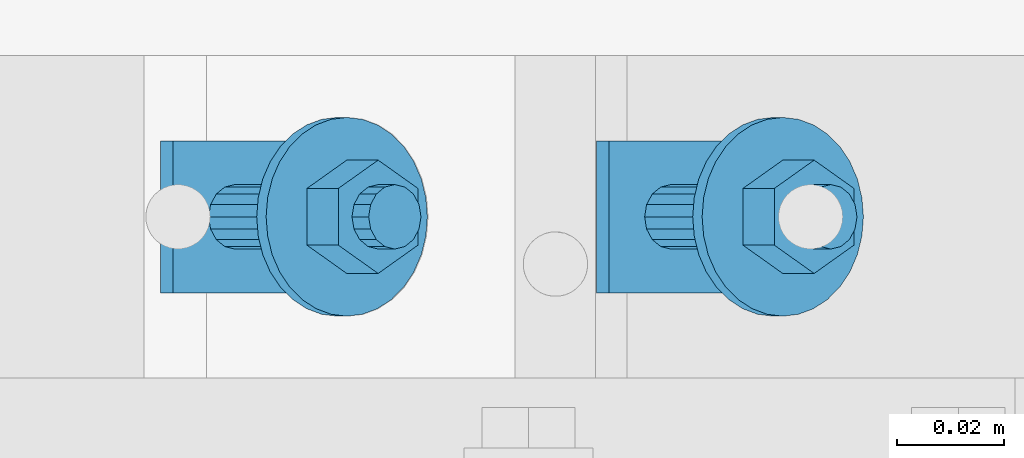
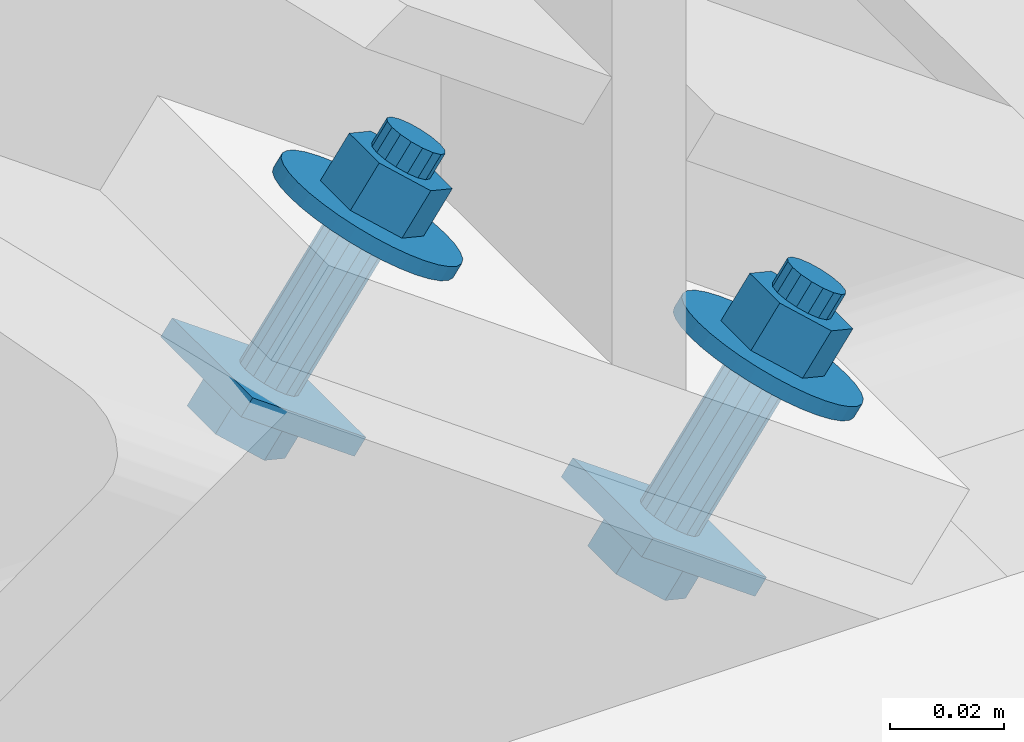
# One storey, part 343 of 825: 1 mechanical fastener.
"""IFC2X3 building model written with IfcOpenShell, lengths in millimetres."""

from ifc_helpers import new_model, entity, si_unit, converted_unit, origin_with_axes, place, context, project, spatial, faceted_brep, element, save


model = new_model("IFC2X3")

# Units and contexts
model_context = context("Model", 3, precision=1e-09, world=origin_with_axes())
ifc_project = project(units=[si_unit("LENGTHUNIT", "METRE", prefix="MILLI"), si_unit("AREAUNIT", "SQUARE_METRE"), si_unit("VOLUMEUNIT", "CUBIC_METRE"), converted_unit("PLANEANGLEUNIT", "DEGREE", entity("IfcPlaneAngleMeasure", 0.01745329), si_unit("PLANEANGLEUNIT", "RADIAN"), dimensions=[0, 0, 0, 0, 0, 0, 0])], contexts=[model_context])

# Site, building, storey
site_placement = place(None, origin_with_axes())
site = spatial("IfcSite", under=ifc_project, at=site_placement, Name="Cnopf'sche Kinderklinik", CompositionType="ELEMENT")
building_placement = place(site_placement, origin_with_axes())
building = spatial("IfcBuilding", under=site, at=building_placement, Name="Struktur 1", CompositionType="ELEMENT")
storey_placement = place(building_placement, origin_with_axes())
storey = spatial("IfcBuildingStorey", under=building, at=storey_placement, Name="Default Storey", CompositionType="ELEMENT", Elevation=0.0)

# Mechanical fastener
mechanical_fastener_placement = place(None, origin_with_axes())
element("IfcMechanicalFastener", 1, at=mechanical_fastener_placement, inside=storey, ObjectType="Bolt#500", NominalDiameter=12.0, NominalLength=55.0, context=model_context, shape_type="Brep", body=[
    faceted_brep([(6953.208396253, 5805.879107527, 16617.945883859), (6955.545145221, 5805.879107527, 16621.192359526), (6978.501194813, 5805.879107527, 16604.669049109), (6976.164445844, 5805.879107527, 16601.422573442), (6978.501194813, 5777.59483628, 16604.669049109), (6976.164445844, 5777.59483628, 16601.422573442), (6955.545145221, 5777.59483628, 16621.192359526), (6953.208396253, 5777.59483628, 16617.945883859)], [[[0, 1, 2, 3]], [[3, 2, 4, 5]], [[5, 4, 6, 7]], [[7, 6, 1, 0]], [[3, 5, 7, 0]], [[2, 1, 6, 4]]]),
    faceted_brep([(7034.370287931, 5805.879107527, 16559.527159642), (7036.7070369, 5805.879107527, 16562.773635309), (7059.663086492, 5805.879107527, 16546.250324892), (7057.326337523, 5805.879107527, 16543.003849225), (7059.663086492, 5777.59483628, 16546.250324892), (7057.326337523, 5777.59483628, 16543.003849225), (7036.7070369, 5777.59483628, 16562.773635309), (7034.370287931, 5777.59483628, 16559.527159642)], [[[0, 1, 2, 3]], [[3, 2, 4, 5]], [[5, 4, 6, 7]], [[7, 6, 1, 0]], [[3, 5, 7, 0]], [[2, 1, 6, 4]]]),
    faceted_brep([(6953.265647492, 5796.744471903, 16608.663885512), (6957.647051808, 5796.744471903, 16614.751027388), (6964.686421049, 5801.751971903, 16609.68422865), (6960.305016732, 5801.751971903, 16603.597086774), (6971.725790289, 5796.744471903, 16604.617429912), (6967.344385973, 5796.744471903, 16598.530288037), (6971.725790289, 5786.729471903, 16604.617429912), (6967.344385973, 5786.729471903, 16598.530288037), (6964.686421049, 5781.721971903, 16609.68422865), (6960.305016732, 5781.721971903, 16603.597086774), (6957.647051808, 5786.729471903, 16614.751027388), (6953.265647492, 5786.729471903, 16608.663885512)], [[[0, 1, 2, 3]], [[3, 2, 4, 5]], [[5, 4, 6, 7]], [[7, 6, 8, 9]], [[9, 8, 10, 11]], [[11, 10, 1, 0]], [[3, 5, 7, 9, 11, 0]], [[2, 1, 10, 8, 6, 4]]]),
    faceted_brep([(7034.427539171, 5796.744471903, 16550.245161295), (7038.808943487, 5796.744471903, 16556.332303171), (7045.848312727, 5801.751971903, 16551.265504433), (7041.466908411, 5801.751971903, 16545.178362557), (7052.887681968, 5796.744471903, 16546.198705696), (7048.506277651, 5796.744471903, 16540.11156382), (7052.887681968, 5786.729471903, 16546.198705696), (7048.506277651, 5786.729471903, 16540.11156382), (7045.848312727, 5781.721971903, 16551.265504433), (7041.466908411, 5781.721971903, 16545.178362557), (7038.808943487, 5786.729471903, 16556.332303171), (7034.427539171, 5786.729471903, 16550.245161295)], [[[0, 1, 2, 3]], [[3, 2, 4, 5]], [[5, 4, 6, 7]], [[7, 6, 8, 9]], [[9, 8, 10, 11]], [[11, 10, 1, 0]], [[3, 5, 7, 9, 11, 0]], [[2, 1, 10, 8, 6, 4]]]),
    faceted_brep([(6990.985761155, 5791.736971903, 16635.951563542), (6971.892883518, 5791.736971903, 16609.425580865), (6971.52219865, 5794.033072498, 16609.6923925), (6990.615076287, 5794.033072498, 16636.218375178), (6970.466577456, 5795.979612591, 16610.452207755), (6989.559455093, 5795.979612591, 16636.978190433), (6968.886728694, 5797.280249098, 16611.589351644), (6987.979606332, 5797.280249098, 16638.115334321), (6967.023170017, 5797.736971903, 16612.930704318), (6986.116047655, 5797.736971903, 16639.456686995), (6965.15961134, 5797.280249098, 16614.272056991), (6984.252488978, 5797.280249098, 16640.798039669), (6963.579762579, 5795.979612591, 16615.40920088), (6982.672640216, 5795.979612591, 16641.935183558), (6962.524141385, 5794.033072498, 16616.169016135), (6981.617019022, 5794.033072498, 16642.694998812), (6962.153456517, 5791.736971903, 16616.435827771), (6981.246334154, 5791.736971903, 16642.961810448), (6962.524141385, 5789.440871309, 16616.169016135), (6981.617019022, 5789.440871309, 16642.694998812), (6963.579762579, 5787.494331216, 16615.40920088), (6982.672640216, 5787.494331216, 16641.935183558), (6965.15961134, 5786.193694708, 16614.272056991), (6984.252488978, 5786.193694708, 16640.798039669), (6967.023170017, 5785.736971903, 16612.930704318), (6986.116047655, 5785.736971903, 16639.456686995), (6968.886728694, 5786.193694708, 16611.589351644), (6987.979606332, 5786.193694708, 16638.115334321), (6970.466577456, 5787.494331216, 16610.452207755), (6989.559455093, 5787.494331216, 16636.978190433), (6971.52219865, 5789.440871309, 16609.6923925), (6990.615076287, 5789.440871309, 16636.218375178)], [[[0, 1, 2, 3]], [[3, 2, 4, 5]], [[5, 4, 6, 7]], [[7, 6, 8, 9]], [[9, 8, 10, 11]], [[11, 10, 12, 13]], [[13, 12, 14, 15]], [[15, 14, 16, 17]], [[17, 16, 18, 19]], [[19, 18, 20, 21]], [[21, 20, 22, 23]], [[23, 22, 24, 25]], [[25, 24, 26, 27]], [[27, 26, 28, 29]], [[29, 28, 30, 31]], [[31, 30, 1, 0]], [[2, 1, 30, 28, 26, 24, 22, 20, 18, 16, 14, 12, 10, 8, 6, 4]], [[31, 0, 3, 5, 7, 9, 11, 13, 15, 17, 19, 21, 23, 25, 27, 29]]]),
    faceted_brep([(7072.147652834, 5791.736971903, 16577.532839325), (7053.054775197, 5791.736971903, 16551.006856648), (7052.684090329, 5794.033072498, 16551.273668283), (7071.776967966, 5794.033072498, 16577.799650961), (7051.628469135, 5795.979612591, 16552.033483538), (7070.721346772, 5795.979612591, 16578.559466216), (7050.048620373, 5797.280249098, 16553.170627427), (7069.14149801, 5797.280249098, 16579.696610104), (7048.185061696, 5797.736971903, 16554.511980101), (7067.277939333, 5797.736971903, 16581.037962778), (7046.321503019, 5797.280249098, 16555.853332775), (7065.414380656, 5797.280249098, 16582.379315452), (7044.741654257, 5795.979612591, 16556.990476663), (7063.834531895, 5795.979612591, 16583.516459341), (7043.686033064, 5794.033072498, 16557.750291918), (7062.778910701, 5794.033072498, 16584.276274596), (7043.315348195, 5791.736971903, 16558.017103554), (7062.408225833, 5791.736971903, 16584.543086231), (7043.686033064, 5789.440871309, 16557.750291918), (7062.778910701, 5789.440871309, 16584.276274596), (7044.741654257, 5787.494331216, 16556.990476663), (7063.834531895, 5787.494331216, 16583.516459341), (7046.321503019, 5786.193694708, 16555.853332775), (7065.414380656, 5786.193694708, 16582.379315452), (7048.185061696, 5785.736971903, 16554.511980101), (7067.277939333, 5785.736971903, 16581.037962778), (7050.048620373, 5786.193694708, 16553.170627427), (7069.14149801, 5786.193694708, 16579.696610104), (7051.628469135, 5787.494331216, 16552.033483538), (7070.721346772, 5787.494331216, 16578.559466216), (7052.684090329, 5789.440871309, 16551.273668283), (7071.776967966, 5789.440871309, 16577.799650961)], [[[0, 1, 2, 3]], [[3, 2, 4, 5]], [[5, 4, 6, 7]], [[7, 6, 8, 9]], [[9, 8, 10, 11]], [[11, 10, 12, 13]], [[13, 12, 14, 15]], [[15, 14, 16, 17]], [[17, 16, 18, 19]], [[19, 18, 20, 21]], [[21, 20, 22, 23]], [[23, 22, 24, 25]], [[25, 24, 26, 27]], [[27, 26, 28, 29]], [[29, 28, 30, 31]], [[31, 30, 1, 0]], [[2, 1, 30, 28, 26, 24, 22, 20, 18, 16, 14, 12, 10, 8, 6, 4]], [[31, 0, 3, 5, 7, 9, 11, 13, 15, 17, 19, 21, 23, 25, 27, 29]]]),
    faceted_brep([(7002.883559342, 5791.736971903, 16631.084079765), (7001.130997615, 5791.736971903, 16628.649223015), (7000.842489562, 5795.346142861, 16628.856885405), (7002.595051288, 5795.346142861, 16631.291742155), (6999.988052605, 5798.816615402, 16629.471892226), (7001.740614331, 5798.816615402, 16631.906748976), (6998.600522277, 5802.015021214, 16630.47060911), (7000.353084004, 5802.015021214, 16632.90546586), (6996.733220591, 5804.818447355, 16631.814655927), (6998.485782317, 5804.818447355, 16634.249512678), (6994.457906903, 5807.119159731, 16633.452381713), (6996.210468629, 5807.119159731, 16635.887238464), (6991.862020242, 5808.828743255, 16635.320849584), (6993.614581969, 5808.828743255, 16637.755706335), (6989.045319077, 5809.881499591, 16637.348255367), (6990.797880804, 5809.881499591, 16639.783112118), (6986.116047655, 5810.236971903, 16639.456686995), (6987.868609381, 5810.236971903, 16641.891543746), (6983.186776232, 5809.881499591, 16641.565118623), (6984.939337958, 5809.881499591, 16643.999975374), (6980.370075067, 5808.828743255, 16643.592524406), (6982.122636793, 5808.828743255, 16646.027381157), (6977.774188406, 5807.119159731, 16645.460992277), (6979.526750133, 5807.119159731, 16647.895849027), (6975.498874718, 5804.818447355, 16647.098718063), (6977.251436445, 5804.818447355, 16649.533574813), (6973.631573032, 5802.015021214, 16648.442764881), (6975.384134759, 5802.015021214, 16650.877621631), (6972.244042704, 5798.816615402, 16649.441481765), (6973.996604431, 5798.816615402, 16651.876338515), (6971.389605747, 5795.346142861, 16650.056488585), (6973.142167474, 5795.346142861, 16652.491345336), (6971.101097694, 5791.736971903, 16650.264150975), (6972.853659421, 5791.736971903, 16652.699007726), (6971.389605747, 5788.127800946, 16650.056488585), (6973.142167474, 5788.127800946, 16652.491345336), (6972.244042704, 5784.657328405, 16649.441481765), (6973.996604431, 5784.657328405, 16651.876338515), (6973.631573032, 5781.458922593, 16648.442764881), (6975.384134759, 5781.458922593, 16650.877621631), (6975.498874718, 5778.655496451, 16647.098718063), (6977.251436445, 5778.655496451, 16649.533574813), (6977.774188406, 5776.354784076, 16645.460992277), (6979.526750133, 5776.354784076, 16647.895849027), (6980.370075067, 5774.645200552, 16643.592524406), (6982.122636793, 5774.645200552, 16646.027381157), (6983.186776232, 5773.592444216, 16641.565118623), (6984.939337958, 5773.592444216, 16643.999975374), (6986.116047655, 5773.236971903, 16639.456686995), (6987.868609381, 5773.236971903, 16641.891543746), (6989.045319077, 5773.592444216, 16637.348255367), (6990.797880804, 5773.592444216, 16639.783112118), (6991.862020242, 5774.645200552, 16635.320849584), (6993.614581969, 5774.645200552, 16637.755706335), (6994.457906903, 5776.354784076, 16633.452381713), (6996.210468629, 5776.354784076, 16635.887238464), (6996.733220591, 5778.655496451, 16631.814655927), (6998.485782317, 5778.655496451, 16634.249512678), (6998.600522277, 5781.458922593, 16630.47060911), (7000.353084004, 5781.458922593, 16632.90546586), (6999.988052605, 5784.657328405, 16629.471892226), (7001.740614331, 5784.657328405, 16631.906748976), (7000.842489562, 5788.127800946, 16628.856885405), (7002.595051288, 5788.127800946, 16631.291742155)], [[[0, 1, 2, 3]], [[3, 2, 4, 5]], [[5, 4, 6, 7]], [[7, 6, 8, 9]], [[9, 8, 10, 11]], [[11, 10, 12, 13]], [[13, 12, 14, 15]], [[15, 14, 16, 17]], [[17, 16, 18, 19]], [[19, 18, 20, 21]], [[21, 20, 22, 23]], [[23, 22, 24, 25]], [[25, 24, 26, 27]], [[27, 26, 28, 29]], [[29, 28, 30, 31]], [[31, 30, 32, 33]], [[33, 32, 34, 35]], [[35, 34, 36, 37]], [[37, 36, 38, 39]], [[39, 38, 40, 41]], [[41, 40, 42, 43]], [[43, 42, 44, 45]], [[45, 44, 46, 47]], [[47, 46, 48, 49]], [[49, 48, 50, 51]], [[51, 50, 52, 53]], [[53, 52, 54, 55]], [[55, 54, 56, 57]], [[57, 56, 58, 59]], [[59, 58, 60, 61]], [[61, 60, 62, 63]], [[63, 62, 1, 0]], [[2, 1, 62, 60, 58, 56, 54, 52, 50, 48, 46, 44, 42, 40, 38, 36, 34, 32, 30, 28, 26, 24, 22, 20, 18, 16, 14, 12, 10, 8, 6, 4]], [[63, 0, 3, 5, 7, 9, 11, 13, 15, 17, 19, 21, 23, 25, 27, 29, 31, 33, 35, 37, 39, 41, 43, 45, 47, 49, 51, 53, 55, 57, 59, 61]]]),
    faceted_brep([(7084.04545102, 5791.736971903, 16572.665355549), (7082.292889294, 5791.736971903, 16570.230498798), (7082.004381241, 5795.346142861, 16570.438161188), (7083.756942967, 5795.346142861, 16572.873017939), (7081.149944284, 5798.816615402, 16571.053168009), (7082.90250601, 5798.816615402, 16573.488024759), (7079.762413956, 5802.015021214, 16572.051884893), (7081.514975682, 5802.015021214, 16574.486741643), (7077.89511227, 5804.818447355, 16573.395931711), (7079.647673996, 5804.818447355, 16575.830788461), (7075.619798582, 5807.119159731, 16575.033657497), (7077.372360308, 5807.119159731, 16577.468514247), (7073.023911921, 5808.828743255, 16576.902125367), (7074.776473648, 5808.828743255, 16579.336982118), (7070.207210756, 5809.881499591, 16578.92953115), (7071.959772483, 5809.881499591, 16581.364387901), (7067.277939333, 5810.236971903, 16581.037962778), (7069.03050106, 5810.236971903, 16583.472819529), (7064.34866791, 5809.881499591, 16583.146394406), (7066.101229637, 5809.881499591, 16585.581251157), (7061.531966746, 5808.828743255, 16585.173800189), (7063.284528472, 5808.828743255, 16587.60865694), (7058.936080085, 5807.119159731, 16587.04226806), (7060.688641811, 5807.119159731, 16589.47712481), (7056.660766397, 5804.818447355, 16588.679993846), (7058.413328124, 5804.818447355, 16591.114850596), (7054.793464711, 5802.015021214, 16590.024040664), (7056.546026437, 5802.015021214, 16592.458897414), (7053.405934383, 5798.816615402, 16591.022757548), (7055.15849611, 5798.816615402, 16593.457614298), (7052.551497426, 5795.346142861, 16591.637764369), (7054.304059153, 5795.346142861, 16594.072621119), (7052.262989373, 5791.736971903, 16591.845426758), (7054.015551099, 5791.736971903, 16594.280283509), (7052.551497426, 5788.127800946, 16591.637764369), (7054.304059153, 5788.127800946, 16594.072621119), (7053.405934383, 5784.657328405, 16591.022757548), (7055.15849611, 5784.657328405, 16593.457614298), (7054.793464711, 5781.458922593, 16590.024040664), (7056.546026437, 5781.458922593, 16592.458897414), (7056.660766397, 5778.655496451, 16588.679993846), (7058.413328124, 5778.655496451, 16591.114850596), (7058.936080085, 5776.354784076, 16587.04226806), (7060.688641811, 5776.354784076, 16589.47712481), (7061.531966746, 5774.645200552, 16585.173800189), (7063.284528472, 5774.645200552, 16587.60865694), (7064.34866791, 5773.592444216, 16583.146394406), (7066.101229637, 5773.592444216, 16585.581251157), (7067.277939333, 5773.236971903, 16581.037962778), (7069.03050106, 5773.236971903, 16583.472819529), (7070.207210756, 5773.592444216, 16578.92953115), (7071.959772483, 5773.592444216, 16581.364387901), (7073.023911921, 5774.645200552, 16576.902125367), (7074.776473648, 5774.645200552, 16579.336982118), (7075.619798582, 5776.354784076, 16575.033657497), (7077.372360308, 5776.354784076, 16577.468514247), (7077.89511227, 5778.655496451, 16573.395931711), (7079.647673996, 5778.655496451, 16575.830788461), (7079.762413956, 5781.458922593, 16572.051884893), (7081.514975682, 5781.458922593, 16574.486741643), (7081.149944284, 5784.657328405, 16571.053168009), (7082.90250601, 5784.657328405, 16573.488024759), (7082.004381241, 5788.127800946, 16570.438161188), (7083.756942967, 5788.127800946, 16572.873017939)], [[[0, 1, 2, 3]], [[3, 2, 4, 5]], [[5, 4, 6, 7]], [[7, 6, 8, 9]], [[9, 8, 10, 11]], [[11, 10, 12, 13]], [[13, 12, 14, 15]], [[15, 14, 16, 17]], [[17, 16, 18, 19]], [[19, 18, 20, 21]], [[21, 20, 22, 23]], [[23, 22, 24, 25]], [[25, 24, 26, 27]], [[27, 26, 28, 29]], [[29, 28, 30, 31]], [[31, 30, 32, 33]], [[33, 32, 34, 35]], [[35, 34, 36, 37]], [[37, 36, 38, 39]], [[39, 38, 40, 41]], [[41, 40, 42, 43]], [[43, 42, 44, 45]], [[45, 44, 46, 47]], [[47, 46, 48, 49]], [[49, 48, 50, 51]], [[51, 50, 52, 53]], [[53, 52, 54, 55]], [[55, 54, 56, 57]], [[57, 56, 58, 59]], [[59, 58, 60, 61]], [[61, 60, 62, 63]], [[63, 62, 1, 0]], [[2, 1, 62, 60, 58, 56, 54, 52, 50, 48, 46, 44, 42, 40, 38, 36, 34, 32, 30, 28, 26, 24, 22, 20, 18, 16, 14, 12, 10, 8, 6, 4]], [[63, 0, 3, 5, 7, 9, 11, 13, 15, 17, 19, 21, 23, 25, 27, 29, 31, 33, 35, 37, 39, 41, 43, 45, 47, 49, 51, 53, 55, 57, 59, 61]]]),
    faceted_brep([(6980.45319795, 5797.011971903, 16647.229010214), (6986.295070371, 5797.011971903, 16655.345199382), (6993.710481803, 5802.286971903, 16650.007732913), (6987.868609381, 5802.286971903, 16641.891543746), (7001.125893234, 5797.011971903, 16644.670266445), (6995.284020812, 5797.011971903, 16636.554077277), (7001.125893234, 5786.461971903, 16644.670266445), (6995.284020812, 5786.461971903, 16636.554077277), (6993.710481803, 5781.186971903, 16650.007732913), (6987.868609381, 5781.186971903, 16641.891543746), (6986.295070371, 5786.461971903, 16655.345199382), (6980.45319795, 5786.461971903, 16647.229010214)], [[[0, 1, 2, 3]], [[3, 2, 4, 5]], [[5, 4, 6, 7]], [[7, 6, 8, 9]], [[9, 8, 10, 11]], [[11, 10, 1, 0]], [[3, 5, 7, 9, 11, 0]], [[2, 1, 10, 8, 6, 4]]]),
    faceted_brep([(7061.615089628, 5797.011971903, 16588.810285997), (7067.45696205, 5797.011971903, 16596.926475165), (7074.872373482, 5802.286971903, 16591.589008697), (7069.03050106, 5802.286971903, 16583.472819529), (7082.287784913, 5797.011971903, 16586.251542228), (7076.445912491, 5797.011971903, 16578.13535306), (7082.287784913, 5786.461971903, 16586.251542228), (7076.445912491, 5786.461971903, 16578.13535306), (7074.872373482, 5781.186971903, 16591.589008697), (7069.03050106, 5781.186971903, 16583.472819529), (7067.45696205, 5786.461971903, 16596.926475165), (7061.615089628, 5786.461971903, 16588.810285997)], [[[0, 1, 2, 3]], [[3, 2, 4, 5]], [[5, 4, 6, 7]], [[7, 6, 8, 9]], [[9, 8, 10, 11]], [[11, 10, 1, 0]], [[3, 5, 7, 9, 11, 0]], [[2, 1, 10, 8, 6, 4]]]),
    faceted_brep([(7001.686432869, 5791.736971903, 16650.81814562), (6998.580195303, 5791.736971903, 16646.50260946), (6998.209510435, 5794.033072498, 16646.769421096), (7001.315748, 5794.033072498, 16651.084957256), (6997.153889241, 5795.979612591, 16647.529236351), (7000.260126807, 5795.979612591, 16651.844772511), (6995.57404048, 5797.280249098, 16648.666380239), (6998.680278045, 5797.280249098, 16652.9819164), (6993.710481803, 5797.736971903, 16650.007732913), (6996.816719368, 5797.736971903, 16654.323269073), (6991.846923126, 5797.280249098, 16651.349085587), (6994.953160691, 5797.280249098, 16655.664621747), (6990.267074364, 5795.979612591, 16652.486229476), (6993.373311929, 5795.979612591, 16656.801765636), (6989.21145317, 5794.033072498, 16653.24604473), (6992.317690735, 5794.033072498, 16657.561580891), (6988.840768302, 5791.736971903, 16653.512856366), (6991.947005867, 5791.736971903, 16657.828392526), (6989.21145317, 5789.440871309, 16653.24604473), (6992.317690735, 5789.440871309, 16657.561580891), (6990.267074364, 5787.494331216, 16652.486229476), (6993.373311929, 5787.494331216, 16656.801765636), (6991.846923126, 5786.193694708, 16651.349085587), (6994.953160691, 5786.193694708, 16655.664621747), (6993.710481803, 5785.736971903, 16650.007732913), (6996.816719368, 5785.736971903, 16654.323269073), (6995.57404048, 5786.193694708, 16648.666380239), (6998.680278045, 5786.193694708, 16652.9819164), (6997.153889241, 5787.494331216, 16647.529236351), (7000.260126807, 5787.494331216, 16651.844772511), (6998.209510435, 5789.440871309, 16646.769421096), (7001.315748, 5789.440871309, 16651.084957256)], [[[0, 1, 2, 3]], [[3, 2, 4, 5]], [[5, 4, 6, 7]], [[7, 6, 8, 9]], [[9, 8, 10, 11]], [[11, 10, 12, 13]], [[13, 12, 14, 15]], [[15, 14, 16, 17]], [[17, 16, 18, 19]], [[19, 18, 20, 21]], [[21, 20, 22, 23]], [[23, 22, 24, 25]], [[25, 24, 26, 27]], [[27, 26, 28, 29]], [[29, 28, 30, 31]], [[31, 30, 1, 0]], [[2, 1, 30, 28, 26, 24, 22, 20, 18, 16, 14, 12, 10, 8, 6, 4]], [[31, 0, 3, 5, 7, 9, 11, 13, 15, 17, 19, 21, 23, 25, 27, 29]]]),
    faceted_brep([(7082.848324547, 5791.736971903, 16592.399421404), (7079.742086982, 5791.736971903, 16588.083885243), (7079.371402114, 5794.033072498, 16588.350696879), (7082.477639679, 5794.033072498, 16592.666233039), (7078.31578092, 5795.979612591, 16589.110512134), (7081.422018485, 5795.979612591, 16593.426048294), (7076.735932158, 5797.280249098, 16590.247656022), (7079.842169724, 5797.280249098, 16594.563192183), (7074.872373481, 5797.736971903, 16591.589008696), (7077.978611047, 5797.736971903, 16595.904544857), (7073.008814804, 5797.280249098, 16592.93036137), (7076.115052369, 5797.280249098, 16597.24589753), (7071.428966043, 5795.979612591, 16594.067505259), (7074.535203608, 5795.979612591, 16598.383041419), (7070.373344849, 5794.033072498, 16594.827320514), (7073.479582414, 5794.033072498, 16599.142856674), (7070.002659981, 5791.736971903, 16595.094132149), (7073.108897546, 5791.736971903, 16599.40966831), (7070.373344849, 5789.440871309, 16594.827320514), (7073.479582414, 5789.440871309, 16599.142856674), (7071.428966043, 5787.494331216, 16594.067505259), (7074.535203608, 5787.494331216, 16598.383041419), (7073.008814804, 5786.193694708, 16592.93036137), (7076.115052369, 5786.193694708, 16597.24589753), (7074.872373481, 5785.736971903, 16591.589008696), (7077.978611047, 5785.736971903, 16595.904544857), (7076.735932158, 5786.193694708, 16590.247656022), (7079.842169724, 5786.193694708, 16594.563192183), (7078.31578092, 5787.494331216, 16589.110512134), (7081.422018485, 5787.494331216, 16593.426048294), (7079.371402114, 5789.440871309, 16588.350696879), (7082.477639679, 5789.440871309, 16592.666233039)], [[[0, 1, 2, 3]], [[3, 2, 4, 5]], [[5, 4, 6, 7]], [[7, 6, 8, 9]], [[9, 8, 10, 11]], [[11, 10, 12, 13]], [[13, 12, 14, 15]], [[15, 14, 16, 17]], [[17, 16, 18, 19]], [[19, 18, 20, 21]], [[21, 20, 22, 23]], [[23, 22, 24, 25]], [[25, 24, 26, 27]], [[27, 26, 28, 29]], [[29, 28, 30, 31]], [[31, 30, 1, 0]], [[2, 1, 30, 28, 26, 24, 22, 20, 18, 16, 14, 12, 10, 8, 6, 4]], [[31, 0, 3, 5, 7, 9, 11, 13, 15, 17, 19, 21, 23, 25, 27, 29]]]),
])

save(model, "model.ifc")
